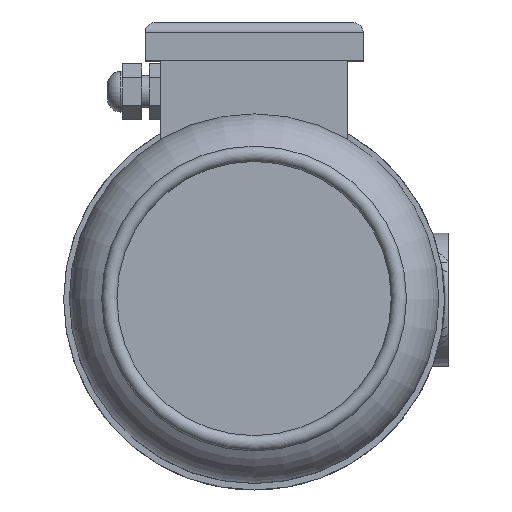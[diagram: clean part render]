
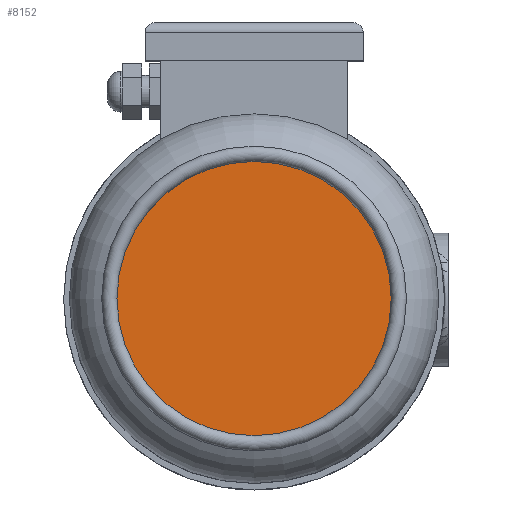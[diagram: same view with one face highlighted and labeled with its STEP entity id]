
A CAD part, top view. The second image highlights one B-rep face of the part: STEP entity #8152.
In plain terms, the highlighted planar face has unit normal (0, 0, 1).
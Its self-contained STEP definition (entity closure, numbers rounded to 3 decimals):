
#613=PLANE('',#8992);
#3952=ORIENTED_EDGE('',*,*,#5198,.F.);
#5198=EDGE_CURVE('',#6019,#6019,#6492,.T.);
#6019=VERTEX_POINT('',#17326);
#6492=CIRCLE('',#8993,72.);
#7028=EDGE_LOOP('',(#3952));
#7594=FACE_BOUND('',#7028,.T.);
#8152=ADVANCED_FACE('',(#7594),#613,.T.);
#8992=AXIS2_PLACEMENT_3D('',#17324,#11122,#11123);
#8993=AXIS2_PLACEMENT_3D('',#17325,#11124,#11125);
#11122=DIRECTION('',(0.,0.,1.));
#11123=DIRECTION('',(1.,0.,0.));
#11124=DIRECTION('',(0.,0.,-1.));
#11125=DIRECTION('',(-1.,0.,0.));
#17324=CARTESIAN_POINT('',(-72.,0.,632.64));
#17325=CARTESIAN_POINT('',(0.,0.,632.64));
#17326=CARTESIAN_POINT('',(-72.,0.,632.64));
